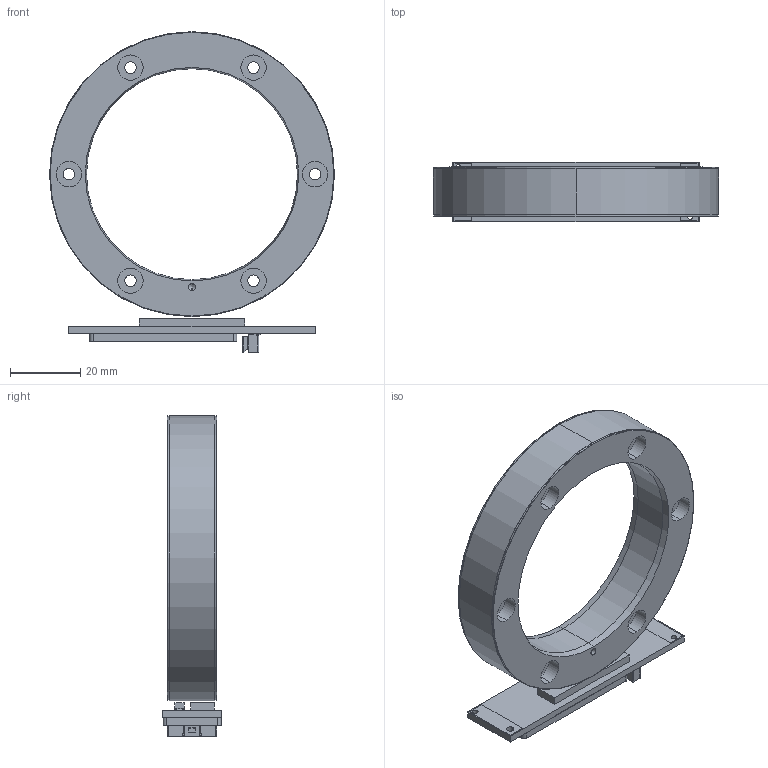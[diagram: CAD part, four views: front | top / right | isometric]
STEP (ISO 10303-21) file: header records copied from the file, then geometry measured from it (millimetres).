
FILE_DESCRIPTION (( 'STEP AP214' ), '1' );
FILE_NAME ('DBRxVx+SAR081.STEP', '2024-02-01T09:37:06', ( '' ), ( '' ), 'SwSTEP 2.0', 'SolidWorks 2022', '' );
FILE_SCHEMA (( 'AUTOMOTIVE_DESIGN' ));
Length unit declared in the file: millimetre
Products named in the file (1): DBRxVx+SAR081
Bounding box: 81.05 x 17 x 91.2 mm (x, y, z)
Volume: 34751.5 mm3; surface area: 15971.4 mm2
Topology: 2 solids, 2 shells, 1434 faces, 3920 edges, 2607 vertices
Faces by surface type: plane 1049, bspline 232, cylinder 117, cone 28, torus 4, sphere 4
Entity records: 73162 total; most frequent: CARTESIAN_POINT 26299, ORIENTED_EDGE 7830, DIRECTION 4045, EDGE_CURVE 3915, VERTEX_POINT 2607, B_SPLINE_CURVE_WITH_KNOTS 2424, EDGE_LOOP 1582, UNCERTAINTY_MEASURE_WITH_UNIT 1438
